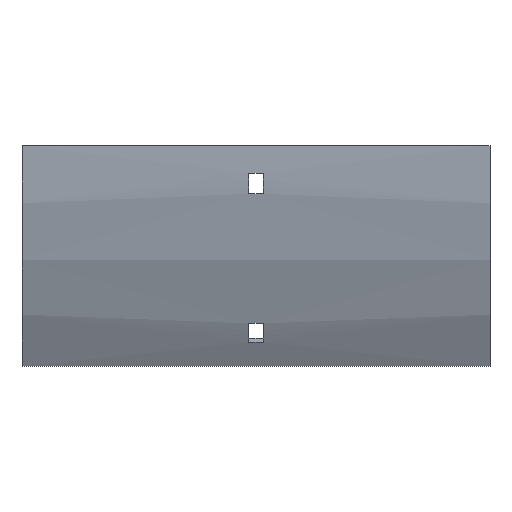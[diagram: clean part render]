
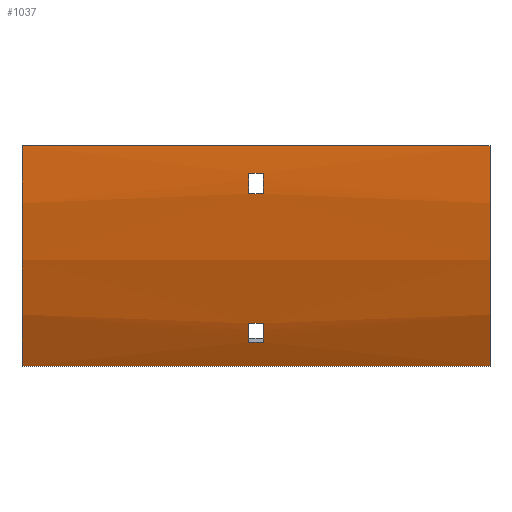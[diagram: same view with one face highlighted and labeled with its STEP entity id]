
A CAD part, front view. The second image highlights one B-rep face of the part: STEP entity #1037.
In plain terms, the highlighted cylindrical face has radius 192.5 mm (diameter 385 mm), a partial arc.
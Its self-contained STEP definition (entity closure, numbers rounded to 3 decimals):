
#23 = EDGE_LOOP ( 'NONE', ( #1202, #152, #1566, #319 ) ) ;
#38 = CARTESIAN_POINT ( 'NONE',  ( 102., -92.126, -12. ) ) ;
#39 = ORIENTED_EDGE ( 'NONE', *, *, #815, .F. ) ;
#49 = VERTEX_POINT ( 'NONE', #1220 ) ;
#59 = CARTESIAN_POINT ( 'NONE',  ( 102., -66.71, -96.25 ) ) ;
#66 = DIRECTION ( 'NONE',  ( 1., 0., 0. ) ) ;
#67 = CARTESIAN_POINT ( 'NONE',  ( -3.25, -91.351, -21. ) ) ;
#89 = VERTEX_POINT ( 'NONE', #1244 ) ;
#106 = EDGE_CURVE ( 'NONE', #1047, #309, #454, .T. ) ;
#112 = CARTESIAN_POINT ( 'NONE',  ( 102., -66.71, -96.25 ) ) ;
#113 = CARTESIAN_POINT ( 'NONE',  ( 3.25, 100., 0. ) ) ;
#126 = DIRECTION ( 'NONE',  ( -1., 0., 0. ) ) ;
#128 = EDGE_CURVE ( 'NONE', #1110, #49, #1491, .T. ) ;
#152 = ORIENTED_EDGE ( 'NONE', *, *, #106, .F. ) ;
#181 = VERTEX_POINT ( 'NONE', #67 ) ;
#184 = DIRECTION ( 'NONE',  ( -1., 0., 0. ) ) ;
#217 = DIRECTION ( 'NONE',  ( 1., 0., 0. ) ) ;
#228 = DIRECTION ( 'NONE',  ( 0., 0., -1. ) ) ;
#231 = VECTOR ( 'NONE', #1407, 1000. ) ;
#238 = DIRECTION ( 'NONE',  ( 0., 0., 1. ) ) ;
#249 = VERTEX_POINT ( 'NONE', #641 ) ;
#250 = DIRECTION ( 'NONE',  ( 1., 0., 0. ) ) ;
#257 = VERTEX_POINT ( 'NONE', #1034 ) ;
#261 = CARTESIAN_POINT ( 'NONE',  ( 3.25, -91.351, -21. ) ) ;
#309 = VERTEX_POINT ( 'NONE', #1077 ) ;
#317 = AXIS2_PLACEMENT_3D ( 'NONE', #761, #1684, #386 ) ;
#319 = ORIENTED_EDGE ( 'NONE', *, *, #1139, .T. ) ;
#325 = ORIENTED_EDGE ( 'NONE', *, *, #1367, .T. ) ;
#352 = CARTESIAN_POINT ( 'NONE',  ( 102., -92.5, 0. ) ) ;
#376 = FACE_OUTER_BOUND ( 'NONE', #23, .T. ) ;
#386 = DIRECTION ( 'NONE',  ( 0., 0., -1. ) ) ;
#418 = DIRECTION ( 'NONE',  ( 1., 0., 0. ) ) ;
#428 = AXIS2_PLACEMENT_3D ( 'NONE', #594, #1132, #843 ) ;
#444 = CARTESIAN_POINT ( 'NONE',  ( 102., -76.215, -77.489 ) ) ;
#454 = LINE ( 'NONE', #59, #1265 ) ;
#457 = EDGE_CURVE ( 'NONE', #89, #1047, #711, .T. ) ;
#483 = ORIENTED_EDGE ( 'NONE', *, *, #938, .T. ) ;
#489 = CARTESIAN_POINT ( 'NONE',  ( -3.25, -92.126, -12. ) ) ;
#494 = CARTESIAN_POINT ( 'NONE',  ( 102., -91.351, -21. ) ) ;
#495 = CYLINDRICAL_SURFACE ( 'NONE', #1441, 192.5 ) ;
#548 = EDGE_LOOP ( 'NONE', ( #555, #1384, #39, #1193 ) ) ;
#555 = ORIENTED_EDGE ( 'NONE', *, *, #128, .F. ) ;
#575 = AXIS2_PLACEMENT_3D ( 'NONE', #113, #217, #228 ) ;
#594 = CARTESIAN_POINT ( 'NONE',  ( 3.25, 100., 0. ) ) ;
#595 = VERTEX_POINT ( 'NONE', #1405 ) ;
#604 = CARTESIAN_POINT ( 'NONE',  ( -3.25, 100., 0. ) ) ;
#621 = LINE ( 'NONE', #352, #1393 ) ;
#639 = CARTESIAN_POINT ( 'NONE',  ( 102., 100., 0. ) ) ;
#641 = CARTESIAN_POINT ( 'NONE',  ( -102., -92.5, 0. ) ) ;
#663 = AXIS2_PLACEMENT_3D ( 'NONE', #1371, #66, #1112 ) ;
#688 = VERTEX_POINT ( 'NONE', #1336 ) ;
#693 = EDGE_CURVE ( 'NONE', #49, #595, #1067, .T. ) ;
#711 = CIRCLE ( 'NONE', #789, 192.5 ) ;
#731 = VERTEX_POINT ( 'NONE', #261 ) ;
#757 = VECTOR ( 'NONE', #418, 1000. ) ;
#761 = CARTESIAN_POINT ( 'NONE',  ( -102., 100., 0. ) ) ;
#787 = CIRCLE ( 'NONE', #575, 192.5 ) ;
#789 = AXIS2_PLACEMENT_3D ( 'NONE', #639, #1568, #1162 ) ;
#793 = EDGE_LOOP ( 'NONE', ( #483, #1433, #325, #1372 ) ) ;
#815 = EDGE_CURVE ( 'NONE', #595, #688, #1471, .T. ) ;
#843 = DIRECTION ( 'NONE',  ( 0., 0., 1. ) ) ;
#867 = CARTESIAN_POINT ( 'NONE',  ( -3.25, -76.215, -77.489 ) ) ;
#894 = FACE_BOUND ( 'NONE', #793, .T. ) ;
#906 = EDGE_CURVE ( 'NONE', #181, #1210, #1522, .T. ) ;
#938 = EDGE_CURVE ( 'NONE', #731, #181, #1546, .T. ) ;
#1034 = CARTESIAN_POINT ( 'NONE',  ( 3.25, -92.126, -12. ) ) ;
#1037 = ADVANCED_FACE ( 'NONE', ( #376, #894, #1417 ), #495, .T. ) ;
#1041 = VECTOR ( 'NONE', #250, 1000. ) ;
#1042 = EDGE_CURVE ( 'NONE', #249, #309, #1588, .T. ) ;
#1047 = VERTEX_POINT ( 'NONE', #112 ) ;
#1067 = LINE ( 'NONE', #1208, #757 ) ;
#1077 = CARTESIAN_POINT ( 'NONE',  ( -102., -66.71, -96.25 ) ) ;
#1097 = EDGE_CURVE ( 'NONE', #257, #731, #787, .T. ) ;
#1110 = VERTEX_POINT ( 'NONE', #867 ) ;
#1112 = DIRECTION ( 'NONE',  ( 0., 0., -1. ) ) ;
#1132 = DIRECTION ( 'NONE',  ( -1., 0., 0. ) ) ;
#1139 = EDGE_CURVE ( 'NONE', #89, #249, #621, .T. ) ;
#1162 = DIRECTION ( 'NONE',  ( 0., 0., -1. ) ) ;
#1193 = ORIENTED_EDGE ( 'NONE', *, *, #693, .F. ) ;
#1202 = ORIENTED_EDGE ( 'NONE', *, *, #1042, .T. ) ;
#1208 = CARTESIAN_POINT ( 'NONE',  ( 102., -72.386, -85.671 ) ) ;
#1210 = VERTEX_POINT ( 'NONE', #489 ) ;
#1220 = CARTESIAN_POINT ( 'NONE',  ( -3.25, -72.386, -85.671 ) ) ;
#1244 = CARTESIAN_POINT ( 'NONE',  ( 102., -92.5, 0. ) ) ;
#1249 = DIRECTION ( 'NONE',  ( -1., 0., 0. ) ) ;
#1265 = VECTOR ( 'NONE', #184, 1000. ) ;
#1323 = LINE ( 'NONE', #38, #1041 ) ;
#1336 = CARTESIAN_POINT ( 'NONE',  ( 3.25, -76.215, -77.489 ) ) ;
#1367 = EDGE_CURVE ( 'NONE', #1210, #257, #1323, .T. ) ;
#1371 = CARTESIAN_POINT ( 'NONE',  ( -3.25, 100., 0. ) ) ;
#1372 = ORIENTED_EDGE ( 'NONE', *, *, #1097, .T. ) ;
#1384 = ORIENTED_EDGE ( 'NONE', *, *, #1547, .F. ) ;
#1393 = VECTOR ( 'NONE', #1667, 1000. ) ;
#1405 = CARTESIAN_POINT ( 'NONE',  ( 3.25, -72.386, -85.671 ) ) ;
#1407 = DIRECTION ( 'NONE',  ( -1., 0., 0. ) ) ;
#1417 = FACE_BOUND ( 'NONE', #548, .T. ) ;
#1431 = AXIS2_PLACEMENT_3D ( 'NONE', #604, #1249, #1655 ) ;
#1433 = ORIENTED_EDGE ( 'NONE', *, *, #906, .T. ) ;
#1441 = AXIS2_PLACEMENT_3D ( 'NONE', #1564, #126, #238 ) ;
#1471 = CIRCLE ( 'NONE', #428, 192.5 ) ;
#1478 = LINE ( 'NONE', #444, #1690 ) ;
#1491 = CIRCLE ( 'NONE', #663, 192.5 ) ;
#1522 = CIRCLE ( 'NONE', #1431, 192.5 ) ;
#1546 = LINE ( 'NONE', #494, #231 ) ;
#1547 = EDGE_CURVE ( 'NONE', #688, #1110, #1478, .T. ) ;
#1564 = CARTESIAN_POINT ( 'NONE',  ( 102., 100., 0. ) ) ;
#1566 = ORIENTED_EDGE ( 'NONE', *, *, #457, .F. ) ;
#1568 = DIRECTION ( 'NONE',  ( 1., 0., 0. ) ) ;
#1588 = CIRCLE ( 'NONE', #317, 192.5 ) ;
#1618 = DIRECTION ( 'NONE',  ( -1., 0., 0. ) ) ;
#1655 = DIRECTION ( 'NONE',  ( 0., 0., 1. ) ) ;
#1667 = DIRECTION ( 'NONE',  ( -1., 0., 0. ) ) ;
#1684 = DIRECTION ( 'NONE',  ( 1., 0., 0. ) ) ;
#1690 = VECTOR ( 'NONE', #1618, 1000. ) ;
